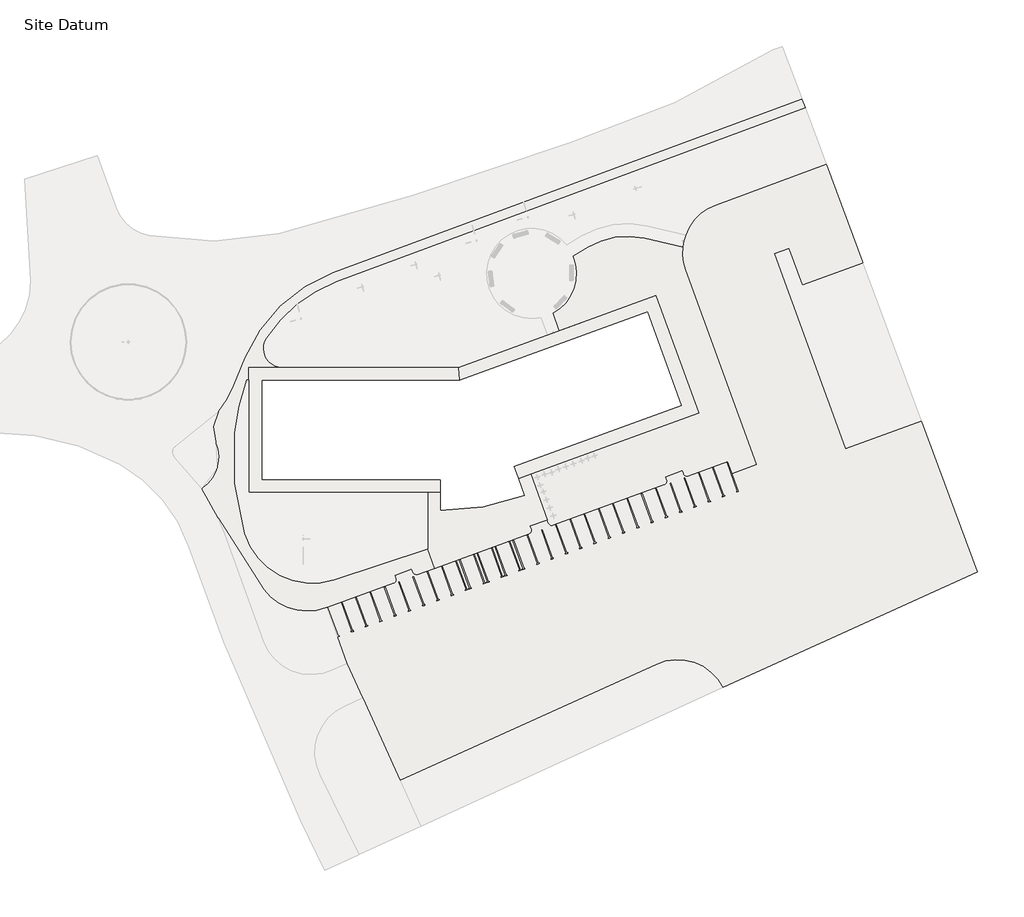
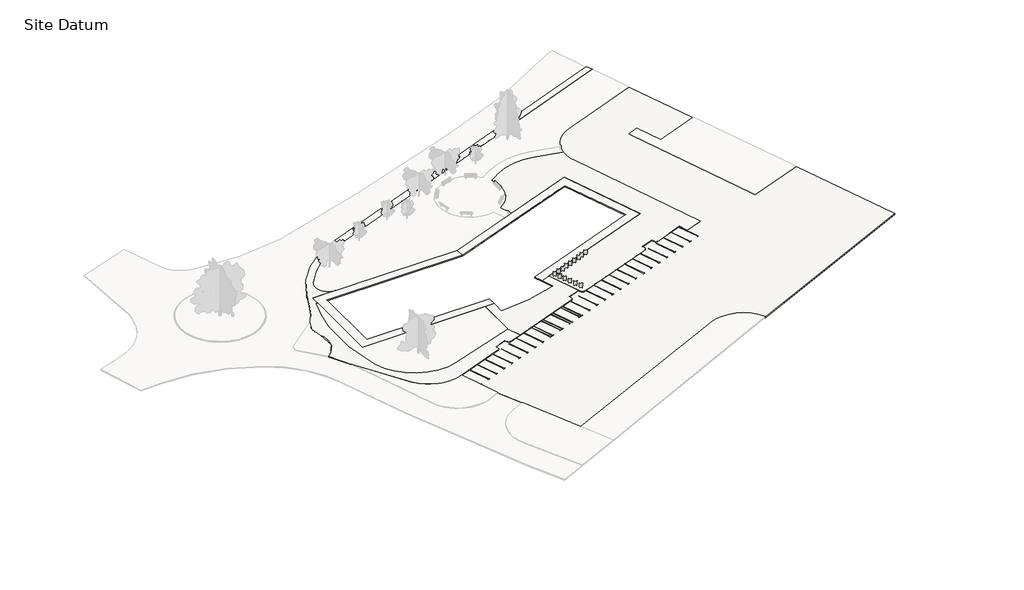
# One storey, part 2 of 3: 4 slabs.
"""IFC4 building model written with IfcOpenShell, lengths in millimetres."""

from ifc_helpers import new_model, si_unit, point, frame, frame_2d, origin, place, context, project, spatial, polyline, circle_curve, trimmed, segment, composite_curve, outline, extrude, element, save
from ifc_brep_helpers import plane_surface, cylinder_surface, revolved_surface, advanced_brep

model = new_model("IFC4")

# Units and contexts
model_context = context("Model", 3, world=origin())
ifc_project = project(units=[si_unit("LENGTHUNIT", "METRE", prefix="MILLI")], contexts=[model_context])

# Site, building, storey
site = spatial("IfcSite", under=ifc_project)
building = spatial("IfcBuilding", under=site)
storey = spatial("IfcBuildingStorey", under=building, Name="Site Datum", Elevation=-150.0)

# Slabs
placement = place(None, origin())
element("IfcSlab", 1, ObjectType="HW - Concrete Paving Slans", at=placement, inside=storey, context=model_context, shape_type="AdvancedBrep", body=[
    advanced_brep(
    [(-2533.7024759, 19294.645713, -1500.0), (11319.0750339, 32678.6820825, -1500.0), (85362.1920702, 60148.6729587, -1500.0), (85883.9420896, 58742.3383907, -1500.0), (11840.8250534, 31272.3475144, -1500.0), (743.7486245, 22349.3339988, -1500.0), (3266.8588542, 17726.3999981, -1500.0), (-1999.9999988, 17726.3999977, -1500.0), (-1999.9999988, 15726.3999977, -1500.0), (-2330.8401022, 15726.3999977, -1500.0), (-4195.856914, 7441.3832849, -1500.0), (-2642.8025055, -8500.2270946, -1500.0), (11459.4893753, -15883.0044948, -1500.0), (26235.8132695, -10959.5697673, -1500.0), (27343.9409024, -14004.1254157, -1500.0), (24705.8710177, -14964.30433, -1500.0), (23936.8433592, -14605.7008435, -1500.0), (23765.8332874, -14135.8545332, -1500.0), (21048.2422282, -15124.9767879, -1500.0), (21219.2522999, -15594.8230984, -1500.0), (20860.6488135, -16363.8507568, -1500.0), (10293.394387, -20210.0168268, -1500.0), (361.689646, -17332.8249948, -1500.0), (-6798.1354124, -6055.3212881, -1500.0), (-9435.7614518, -1426.1466285, -1500.0), (-7225.4587436, 5980.7679513, -1500.0), (-6782.3087816, 10684.1792377, -1500.0), (-4338.0208149, 14901.10847, -1500.0), (-2533.7024759, 19294.645713, -150.0), (-4338.0208149, 14901.10847, -150.0), (-6782.3087816, 10684.1792377, -150.0), (-7225.4587436, 5980.7679513, -150.0), (-9435.7614518, -1426.1466285, -150.0), (-6798.1354124, -6055.3212881, -150.0), (361.689646, -17332.8249947, -150.0), (10293.394387, -20210.0168268, -150.0), (20860.6488135, -16363.8507567, -150.0), (21219.2522999, -15594.8230984, -150.0), (21048.2422282, -15124.9767879, -150.0), (23765.8332874, -14135.8545332, -150.0), (23936.843359, -14605.7008435, -150.0), (24705.8710177, -14964.30433, -150.0), (27343.9409024, -14004.1254157, -150.0), (26235.8132695, -10959.5697673, -150.0), (11459.4893753, -15883.0044948, -150.0), (-2642.8025055, -8500.2270946, -150.0), (-4195.856914, 7441.3832849, -150.0), (-2330.8401022, 15726.3999977, -150.0), (-1999.9999988, 15726.3999977, -150.0), (-1999.9999988, 17726.3999977, -150.0), (3266.8588542, 17726.3999981, -150.0), (743.7486245, 22349.3339988, -150.0), (11840.8250534, 31272.3475144, -150.0), (85883.9420896, 58742.3383907, -150.0), (85362.1920702, 60148.6729587, -150.0), (11319.0750339, 32678.6820825, -150.0)],
    [
        (0, 1, circle_curve(frame((19667.0753449, 10177.3289941, -1500.0), z_axis=(0.0, 0.0, -1.0), x_axis=(1.0, 0.0, 0.0)), 24000.0)),
        (1, 2),
        (2, 3),
        (3, 4),
        (4, 5, circle_curve(frame((19667.0753449, 10177.3289941, -1500.0), z_axis=(0.0, 0.0, 1.0), x_axis=(1.0, 0.0, 0.0)), 22500.0)),
        (5, 6, circle_curve(frame((3266.8588539, 20726.3999981, -1500.0), z_axis=(0.0, 0.0, 1.0), x_axis=(1.0, 0.0, 0.0)), 3000.0)),
        (6, 7),
        (7, 8),
        (8, 9),
        (9, 10, circle_curve(frame((33467.7934212, 3315.4475825, -1500.0), z_axis=(0.0, 0.0, 1.0), x_axis=(1.0, 0.0, 0.0)), 37888.9680777)),
        (10, 11, circle_curve(frame((34681.860266, 3182.4503372, -1500.0), z_axis=(0.0, 0.0, 1.0), x_axis=(1.0, 0.0, 0.0)), 39110.2979148)),
        (11, 12, circle_curve(frame((8101.4056004, -5137.2732662, -1500.0), z_axis=(0.0, 0.0, 1.0), x_axis=(1.0, 0.0, 0.0)), 11258.217722)),
        (12, 13),
        (13, 14),
        (14, 15),
        (15, 16, circle_curve(frame((24500.6589316, -14400.4887575, -1500.0), z_axis=(0.0, 0.0, -1.0), x_axis=(1.0, 0.0, 0.0)), 600.0)),
        (16, 17),
        (17, 18),
        (18, 19),
        (19, 20, circle_curve(frame((20655.4367274, -15800.0351843, -1500.0), z_axis=(0.0, 0.0, -1.0), x_axis=(1.0, 0.0, 0.0)), 600.0)),
        (20, 21),
        (21, 22, circle_curve(frame((7234.2316265, -12189.7679154, -1500.0), z_axis=(0.0, 0.0, -1.0), x_axis=(1.0, 0.0, 0.0)), 8583.872634)),
        (22, 23, circle_curve(frame((70084.3302911, 34844.0146056, -1500.0), z_axis=(0.0, 0.0, -1.0), x_axis=(1.0, 0.0, 0.0)), 87084.264992)),
        (23, 24, circle_curve(frame((-34025.202939, -18502.8226128, -1500.0), z_axis=(0.0, 0.0, 1.0), x_axis=(1.0, 0.0, 0.0)), 29937.4931369)),
        (24, 25, circle_curve(frame((-12598.9404573, 3551.0261947, -1500.0), z_axis=(0.0, 0.0, 1.0), x_axis=(1.0, 0.0, 0.0)), 5897.2833349)),
        (25, 26, circle_curve(frame((-2883.1840488, 7944.2260418, -1500.0), z_axis=(0.0, 0.0, -1.0), x_axis=(1.0, 0.0, 0.0)), 4765.5552875)),
        (26, 27, circle_curve(frame((-21009.666539, 21747.745805, -1500.0), z_axis=(0.0, 0.0, 1.0), x_axis=(1.0, 0.0, 0.0)), 18022.7693195)),
        (27, 0),
        (28, 29),
        (29, 30, circle_curve(frame((-21009.666539, 21747.745805, -150.0), z_axis=(0.0, 0.0, -1.0), x_axis=(1.0, 0.0, 0.0)), 18022.7693195)),
        (30, 31, circle_curve(frame((-2883.1840488, 7944.2260418, -150.0), z_axis=(0.0, 0.0, 1.0), x_axis=(1.0, 0.0, 0.0)), 4765.5552875)),
        (31, 32, circle_curve(frame((-12598.9404573, 3551.0261947, -150.0), z_axis=(0.0, 0.0, -1.0), x_axis=(1.0, 0.0, 0.0)), 5897.2833349)),
        (32, 33, circle_curve(frame((-34025.202939, -18502.8226128, -150.0), z_axis=(0.0, 0.0, -1.0), x_axis=(1.0, 0.0, 0.0)), 29937.4931369)),
        (33, 34, circle_curve(frame((70084.3302911, 34844.0146056, -150.0), z_axis=(0.0, 0.0, 1.0), x_axis=(1.0, 0.0, 0.0)), 87084.264992)),
        (34, 35, circle_curve(frame((7234.2316265, -12189.7679154, -150.0), z_axis=(0.0, 0.0, 1.0), x_axis=(1.0, 0.0, 0.0)), 8583.872634)),
        (35, 36),
        (36, 37, circle_curve(frame((20655.4367274, -15800.0351843, -150.0), z_axis=(0.0, 0.0, 1.0), x_axis=(1.0, 0.0, 0.0)), 600.0)),
        (37, 38),
        (38, 39),
        (39, 40),
        (40, 41, circle_curve(frame((24500.6589316, -14400.4887575, -150.0), z_axis=(0.0, 0.0, 1.0), x_axis=(1.0, 0.0, 0.0)), 600.0)),
        (41, 42),
        (42, 43),
        (43, 44),
        (44, 45, circle_curve(frame((8101.4056004, -5137.2732662, -150.0), z_axis=(0.0, 0.0, -1.0), x_axis=(1.0, 0.0, 0.0)), 11258.217722)),
        (45, 46, circle_curve(frame((34681.860266, 3182.4503372, -150.0), z_axis=(0.0, 0.0, -1.0), x_axis=(1.0, 0.0, 0.0)), 39110.2979148)),
        (46, 47, circle_curve(frame((33467.7934212, 3315.4475825, -150.0), z_axis=(0.0, 0.0, -1.0), x_axis=(1.0, 0.0, 0.0)), 37888.9680777)),
        (47, 48),
        (48, 49),
        (49, 50),
        (50, 51, circle_curve(frame((3266.8588539, 20726.3999981, -150.0), z_axis=(0.0, 0.0, -1.0), x_axis=(1.0, 0.0, 0.0)), 3000.0)),
        (51, 52, circle_curve(frame((19667.0753449, 10177.3289941, -150.0), z_axis=(0.0, 0.0, -1.0), x_axis=(1.0, 0.0, 0.0)), 22500.0)),
        (52, 53),
        (53, 54),
        (54, 55),
        (55, 28, circle_curve(frame((19667.0753449, 10177.3289941, -150.0), z_axis=(0.0, 0.0, 1.0), x_axis=(1.0, 0.0, 0.0)), 24000.0)),
        (0, 28),
        (55, 1),
        (54, 2),
        (53, 3),
        (52, 4),
        (51, 5),
        (50, 6),
        (49, 7),
        (48, 8),
        (47, 9),
        (46, 10),
        (45, 11),
        (44, 12),
        (43, 13),
        (42, 14),
        (41, 15),
        (40, 16),
        (39, 17),
        (38, 18),
        (37, 19),
        (36, 20),
        (35, 21),
        (34, 22),
        (33, 23),
        (32, 24),
        (31, 25),
        (30, 26),
        (29, 27),
    ],
    [
        plane_surface(frame((43667.0753449, 10177.3289941, -1500.0), z_axis=(0.0, 0.0, -1.0), x_axis=(0.0, -1.0, 0.0))),
        plane_surface(frame((43667.0753449, 10177.3289941, -150.0), z_axis=(0.0, 0.0, 1.0), x_axis=(0.0, 1.0, 0.0))),
        cylinder_surface(frame((19667.0753449, 10177.3289941, -150.0), z_axis=(0.0, 0.0, -1.0), x_axis=(1.0, 0.0, 0.0)), 24000.0),
        plane_surface(frame((11319.0750339, 32678.6820825, -1500.0), z_axis=(-0.34783334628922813, 0.9375563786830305, 0.0), x_axis=(0.0, 0.0, 1.0))),
        plane_surface(frame((85362.1920702, 60148.6729587, -1500.0), z_axis=(0.937556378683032, 0.34783334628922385, 0.0), x_axis=(0.0, 0.0, 1.0))),
        plane_surface(frame((85883.9420896, 58742.3383907, -1500.0), z_axis=(0.3478333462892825, -0.9375563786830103, 0.0), x_axis=(0.0, 0.0, 1.0))),
        revolved_surface(polyline([(42167.075344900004, 10177.3289941, -150.0), (42167.075344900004, 10177.3289941, -1500.0)]), (19667.0753449, 10177.3289941, -150.0), (0.0, 0.0, 1.0)),
        revolved_surface(polyline([(6266.8588539, 20726.3999981, -150.0), (6266.8588539, 20726.3999981, -1500.0)]), (3266.8588539, 20726.3999981, -150.0), (0.0, 0.0, 1.0)),
        plane_surface(frame((3266.8588542, 17726.3999981, -1500.0), z_axis=(7.702193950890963e-11, -1.0, 0.0), x_axis=(0.0, 0.0, 1.0))),
        plane_surface(frame((-1999.9999988, 17726.3999977, -1500.0), z_axis=(1.0, 0.0, 0.0), x_axis=(0.0, 0.0, 1.0))),
        plane_surface(frame((-1999.9999988, 15726.3999977, -1500.0), z_axis=(0.0, -1.0, 0.0), x_axis=(0.0, 0.0, 1.0))),
        revolved_surface(polyline([(71356.7614989, 3315.4475825, -150.0), (71356.7614989, 3315.4475825, -1500.0)]), (33467.7934212, 3315.4475825, -150.0), (0.0, 0.0, 1.0)),
        revolved_surface(polyline([(73792.1581808, 3182.4503372, -150.0), (73792.1581808, 3182.4503372, -1500.0)]), (34681.860266, 3182.4503372, -150.0), (0.0, 0.0, 1.0)),
        revolved_surface(polyline([(19359.6233224, -5137.2732662, -150.0), (19359.6233224, -5137.2732662, -1500.0)]), (8101.4056004, -5137.2732662, -150.0), (0.0, 0.0, 1.0)),
        plane_surface(frame((11459.4893753, -15883.0044948, -1500.0), z_axis=(-0.31611181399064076, 0.9487219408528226, 0.0), x_axis=(0.0, 0.0, 1.0))),
        plane_surface(frame((26235.8132695, -10959.5697673, -1500.0), z_axis=(0.939692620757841, 0.3420201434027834, 0.0), x_axis=(0.0, 0.0, 1.0))),
        plane_surface(frame((27343.9409024, -14004.1254157, -1500.0), z_axis=(0.34202014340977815, -0.9396926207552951, 0.0), x_axis=(0.0, 0.0, 1.0))),
        cylinder_surface(frame((24500.6589316, -14400.4887575, -150.0), z_axis=(0.0, 0.0, -1.0), x_axis=(1.0, 0.0, 0.0)), 600.0),
        plane_surface(frame((23936.843359, -14605.7008435, -1500.0), z_axis=(-0.9396926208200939, -0.342020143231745, 0.0), x_axis=(0.0, 0.0, 1.0))),
        plane_surface(frame((23765.8332874, -14135.8545332, -1500.0), z_axis=(0.3420201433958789, -0.939692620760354, 0.0), x_axis=(0.0, 0.0, 1.0))),
        plane_surface(frame((21048.2422282, -15124.9767879, -1500.0), z_axis=(0.939692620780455, 0.3420201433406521, 0.0), x_axis=(0.0, 0.0, 1.0))),
        cylinder_surface(frame((20655.4367274, -15800.0351843, -150.0), z_axis=(0.0, 0.0, -1.0), x_axis=(1.0, 0.0, 0.0)), 600.0),
        plane_surface(frame((20860.6488135, -16363.8507567, -1500.0), z_axis=(0.34202014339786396, -0.9396926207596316, 0.0), x_axis=(0.0, 0.0, 1.0))),
        cylinder_surface(frame((7234.2316265, -12189.7679154, -150.0), z_axis=(0.0, 0.0, -1.0), x_axis=(1.0, 0.0, 0.0)), 8583.872634),
        cylinder_surface(frame((70084.3302911, 34844.0146056, -150.0), z_axis=(0.0, 0.0, -1.0), x_axis=(1.0, 0.0, 0.0)), 87084.264992),
        revolved_surface(polyline([(-4087.709802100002, -18502.8226128, -150.0), (-4087.709802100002, -18502.8226128, -1500.0)]), (-34025.202939, -18502.8226128, -150.0), (0.0, 0.0, 1.0)),
        revolved_surface(polyline([(-6701.657122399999, 3551.0261947, -150.0), (-6701.657122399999, 3551.0261947, -1500.0)]), (-12598.9404573, 3551.0261947, -150.0), (0.0, 0.0, 1.0)),
        cylinder_surface(frame((-2883.1840488, 7944.2260418, -150.0), z_axis=(0.0, 0.0, -1.0), x_axis=(1.0, 0.0, 0.0)), 4765.5552875),
        revolved_surface(polyline([(-2986.8972195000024, 21747.745805, -150.0), (-2986.8972195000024, 21747.745805, -1500.0)]), (-21009.666539, 21747.745805, -150.0), (0.0, 0.0, 1.0)),
        plane_surface(frame((-4338.0208149, 14901.10847, -1500.0), z_axis=(-0.9250324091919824, 0.37988819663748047, 0.0), x_axis=(0.0, 0.0, 1.0))),
    ],
    [
        (0, [[1, 2, 3, 4, 5, 6, 7, 8, 9, 10, 11, 12, 13, 14, 15, 16, 17, 18, 19, 20, 21, 22, 23, 24, 25, 26, 27, 28]]),
        (1, [[29, 30, 31, 32, 33, 34, 35, 36, 37, 38, 39, 40, 41, 42, 43, 44, 45, 46, 47, 48, 49, 50, 51, 52, 53, 54, 55, 56]]),
        (2, [[-1, 57, -56, 58]]),
        (3, [[-2, -58, -55, 59]]),
        (4, [[-3, -59, -54, 60]]),
        (5, [[-4, -60, -53, 61]]),
        (6, [[-5, -61, -52, 62]]),
        (7, [[-6, -62, -51, 63]]),
        (8, [[-7, -63, -50, 64]]),
        (9, [[-8, -64, -49, 65]]),
        (10, [[-9, -65, -48, 66]]),
        (11, [[-10, -66, -47, 67]]),
        (12, [[-11, -67, -46, 68]]),
        (13, [[-12, -68, -45, 69]]),
        (14, [[-13, -69, -44, 70]]),
        (15, [[-14, -70, -43, 71]]),
        (16, [[-15, -71, -42, 72]]),
        (17, [[-16, -72, -41, 73]]),
        (18, [[-17, -73, -40, 74]]),
        (19, [[-18, -74, -39, 75]]),
        (20, [[-19, -75, -38, 76]]),
        (21, [[-20, -76, -37, 77]]),
        (22, [[-21, -77, -36, 78]]),
        (23, [[-22, -78, -35, 79]]),
        (24, [[-23, -79, -34, 80]]),
        (25, [[-24, -80, -33, 81]]),
        (26, [[-25, -81, -32, 82]]),
        (27, [[-26, -82, -31, 83]]),
        (28, [[-27, -83, -30, 84]]),
        (29, [[-28, -84, -29, -57]]),
    ],
),
])
element("IfcSlab", 2, ObjectType="HW - Block Paving Herringbone Bond", at=placement, inside=storey, context=model_context, shape_type="AdvancedBrep", body=[
    advanced_brep(
    [(72854.8615141, -32834.7337523, -550.0), (62413.3299219, -29161.4888246, -550.0), (21892.102352, -47535.3195724, -550.0), (13513.7889112, -29057.9780616, -550.0), (10293.394387, -20210.0168268, -550.0), (20860.6488135, -16363.8507568, -550.0), (21219.2522999, -15594.8230983, -550.0), (21048.2422282, -15124.9767879, -550.0), (23765.8332874, -14135.8545332, -550.0), (23936.8433592, -14605.7008435, -550.0), (24705.8710177, -14964.30433, -550.0), (27343.9409024, -14004.1254157, -550.0), (42229.2590094, -8586.312696, -550.0), (42587.8624958, -7817.2850373, -550.0), (42416.8524241, -7347.4387271, -550.0), (45134.4434836, -6358.3164723, -550.0), (45312.1342321, -6845.6628614, -550.0), (46074.4812136, -7186.7662691, -550.0), (63597.8692056, -808.7746351, -550.0), (63956.4726919, -39.7469764, -550.0), (63785.4626203, 430.0993338, -550.0), (66503.0536795, 1419.2215885, -550.0), (66674.0637513, 949.375278, -550.0), (67443.0914098, 590.7717917, -550.0), (73675.6616572, 2859.2418453, -550.0), (74359.701944, 979.8566038, -550.0), (78181.8427387, 2371.0020846, -550.0), (66971.6618256, 33170.7210039, -550.0), (71720.4515573, 43412.4811679, -550.0), (89181.6069928, 49853.7519521, -550.0), (94984.2393189, 34213.2303961, -550.0), (85434.5526674, 30737.4287076, -550.0), (83321.9952212, 36541.6325869, -550.0), (81084.2283756, 35727.1520637, -550.0), (92285.419034, 4952.1336662, -550.0), (104227.5262858, 9298.7052413, -550.0), (113090.3993638, -14590.4453427, -550.0), (72854.8615141, -32834.7337523, -300.0), (113090.3993638, -14590.4453427, -300.0), (104227.5262858, 9298.7052413, -300.0), (92285.419034, 4952.1336662, -300.0), (81084.2283756, 35727.1520637, -300.0), (83321.9952212, 36541.6325869, -300.0), (85434.5526674, 30737.4287076, -300.0), (94984.2393189, 34213.2303961, -300.0), (94940.7593168, 34330.4271911, -300.0), (89181.6069928, 49853.7519521, -300.0), (71720.4515573, 43412.4811679, -300.0), (66971.6618256, 33170.7210039, -300.0), (78181.8427387, 2371.0020846, -300.0), (74359.701944, 979.8566038, -300.0), (73675.6616572, 2859.2418453, -300.0), (67443.0914098, 590.7717918, -300.0), (66674.0637513, 949.375278, -300.0), (66503.0536795, 1419.2215885, -300.0), (63785.4626203, 430.0993338, -300.0), (63956.4726921, -39.7469764, -300.0), (63597.8692056, -808.7746351, -300.0), (46074.4812136, -7186.7662691, -300.0), (45312.1342321, -6845.6628614, -300.0), (45134.4434836, -6358.3164723, -300.0), (42416.8524241, -7347.4387271, -300.0), (42587.8624959, -7817.2850373, -300.0), (42229.2590094, -8586.312696, -300.0), (27343.9409024, -14004.1254157, -300.0), (24705.8710177, -14964.30433, -300.0), (23936.8433592, -14605.7008435, -300.0), (23765.8332874, -14135.8545332, -300.0), (21048.2422282, -15124.9767879, -300.0), (21219.2522999, -15594.8230983, -300.0), (20860.6488135, -16363.8507568, -300.0), (10293.394387, -20210.0168268, -300.0), (13513.7889112, -29057.9780616, -300.0), (15991.5863515, -34522.4560646, -300.0), (21892.102352, -47535.3195724, -300.0), (62413.3299219, -29161.4888247, -300.0)],
    [
        (0, 1, circle_curve(frame((65717.0598423, -36447.4594953, -550.0), z_axis=(0.0, 0.0, 1.0), x_axis=(1.0, 0.0, 0.0)), 8000.0)),
        (1, 2),
        (2, 3),
        (3, 4),
        (4, 5),
        (5, 6, circle_curve(frame((20655.4367274, -15800.0351843, -550.0), z_axis=(0.0, 0.0, 1.0), x_axis=(1.0, 0.0, 0.0)), 600.0)),
        (6, 7),
        (7, 8),
        (8, 9),
        (9, 10, circle_curve(frame((24500.6589316, -14400.4887575, -550.0), z_axis=(0.0, 0.0, 1.0), x_axis=(1.0, 0.0, 0.0)), 600.0)),
        (10, 11),
        (11, 12),
        (12, 13, circle_curve(frame((42024.0469234, -8022.4971235, -550.0), z_axis=(0.0, 0.0, 1.0), x_axis=(1.0, 0.0, 0.0)), 600.0)),
        (13, 14),
        (14, 15),
        (15, 16),
        (16, 17, circle_curve(frame((45869.2691276, -6622.9506967, -550.0), z_axis=(0.0, 0.0, 1.0), x_axis=(1.0, 0.0, 0.0)), 600.0)),
        (17, 18),
        (18, 19, circle_curve(frame((63392.6571195, -244.9590626, -550.0), z_axis=(0.0, 0.0, 1.0), x_axis=(1.0, 0.0, 0.0)), 600.0)),
        (19, 20),
        (20, 21),
        (21, 22),
        (22, 23, circle_curve(frame((67237.8793237, 1154.5873642, -550.0), z_axis=(0.0, 0.0, 1.0), x_axis=(1.0, 0.0, 0.0)), 600.0)),
        (23, 24),
        (24, 25),
        (25, 26),
        (26, 27),
        (27, 28, circle_curve(frame((74489.2027917, 35906.8821511, -550.0), z_axis=(0.0, 0.0, -1.0), x_axis=(1.0, 0.0, 0.0)), 8000.0)),
        (28, 29),
        (29, 30),
        (30, 31),
        (31, 32),
        (32, 33),
        (33, 34),
        (34, 35),
        (35, 36),
        (36, 0),
        (37, 38),
        (38, 39),
        (39, 40),
        (40, 41),
        (41, 42),
        (42, 43),
        (43, 44),
        (44, 45),
        (45, 46),
        (46, 47),
        (47, 48, circle_curve(frame((74489.2027917, 35906.8821511, -300.0), z_axis=(0.0, 0.0, 1.0), x_axis=(1.0, 0.0, 0.0)), 8000.0)),
        (48, 49),
        (49, 50),
        (50, 51),
        (51, 52),
        (52, 53, circle_curve(frame((67237.8793237, 1154.5873642, -300.0), z_axis=(0.0, 0.0, -1.0), x_axis=(1.0, 0.0, 0.0)), 600.0)),
        (53, 54),
        (54, 55),
        (55, 56),
        (56, 57, circle_curve(frame((63392.6571195, -244.9590626, -300.0), z_axis=(0.0, 0.0, -1.0), x_axis=(1.0, 0.0, 0.0)), 600.0)),
        (57, 58),
        (58, 59, circle_curve(frame((45869.2691276, -6622.9506967, -300.0), z_axis=(0.0, 0.0, -1.0), x_axis=(1.0, 0.0, 0.0)), 600.0)),
        (59, 60),
        (60, 61),
        (61, 62),
        (62, 63, circle_curve(frame((42024.0469234, -8022.4971235, -300.0), z_axis=(0.0, 0.0, -1.0), x_axis=(1.0, 0.0, 0.0)), 600.0)),
        (63, 64),
        (64, 65),
        (65, 66, circle_curve(frame((24500.6589316, -14400.4887575, -300.0), z_axis=(0.0, 0.0, -1.0), x_axis=(1.0, 0.0, 0.0)), 600.0)),
        (66, 67),
        (67, 68),
        (68, 69),
        (69, 70, circle_curve(frame((20655.4367274, -15800.0351843, -300.0), z_axis=(0.0, 0.0, -1.0), x_axis=(1.0, 0.0, 0.0)), 600.0)),
        (70, 71),
        (71, 72),
        (72, 73),
        (73, 74),
        (74, 75),
        (75, 37, circle_curve(frame((65717.0598423, -36447.4594953, -300.0), z_axis=(0.0, 0.0, -1.0), x_axis=(1.0, 0.0, 0.0)), 8000.0)),
        (0, 37),
        (75, 1),
        (74, 2),
        (72, 3),
        (71, 4),
        (70, 5),
        (69, 6),
        (68, 7),
        (67, 8),
        (66, 9),
        (65, 10),
        (64, 11),
        (63, 12),
        (62, 13),
        (61, 14),
        (60, 15),
        (59, 16),
        (58, 17),
        (57, 18),
        (56, 19),
        (55, 20),
        (54, 21),
        (53, 22),
        (52, 23),
        (51, 24),
        (50, 25),
        (49, 26),
        (48, 27),
        (47, 28),
        (46, 29),
        (44, 30),
        (43, 31),
        (42, 32),
        (41, 33),
        (40, 34),
        (39, 35),
        (38, 36),
    ],
    [
        plane_surface(frame((73717.0598423, -36447.4594953, -550.0), z_axis=(0.0, 0.0, -1.0), x_axis=(0.0, 1.0, 0.0))),
        plane_surface(frame((73717.0598423, -36447.4594953, -300.0), z_axis=(0.0, 0.0, 1.0), x_axis=(0.0, -1.0, 0.0))),
        revolved_surface(polyline([(73717.0598423, -36447.4594953, -300.0), (73717.0598423, -36447.4594953, -550.0)]), (65717.0598423, -36447.4594953, -300.0), (0.0, 0.0, 1.0)),
        plane_surface(frame((62413.3299219, -29161.4888247, -550.0), z_axis=(0.4129662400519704, -0.9107463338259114, 0.0), x_axis=(0.0, 0.0, 1.0))),
        plane_surface(frame((21892.102352, -47535.3195724, -550.0), z_axis=(-0.9107463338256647, -0.4129662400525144, 0.0), x_axis=(0.0, 0.0, 1.0))),
        plane_surface(frame((13513.7889112, -29057.9780616, -550.0), z_axis=(-0.939692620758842, -0.3420201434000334, 0.0), x_axis=(0.0, 0.0, 1.0))),
        plane_surface(frame((10293.394387, -20210.0168268, -550.0), z_axis=(-0.34202014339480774, 0.9396926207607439, 0.0), x_axis=(0.0, 0.0, 1.0))),
        revolved_surface(polyline([(21255.4367274, -15800.0351843, -300.0), (21255.4367274, -15800.0351843, -550.0)]), (20655.4367274, -15800.0351843, -300.0), (0.0, 0.0, 1.0)),
        plane_surface(frame((21219.2522999, -15594.8230983, -550.0), z_axis=(-0.9396926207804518, -0.3420201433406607, 0.0), x_axis=(0.0, 0.0, 1.0))),
        plane_surface(frame((21048.2422282, -15124.9767879, -550.0), z_axis=(-0.3420201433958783, 0.9396926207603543, 0.0), x_axis=(0.0, 0.0, 1.0))),
        plane_surface(frame((23765.8332874, -14135.8545332, -550.0), z_axis=(0.9396926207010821, 0.3420201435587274, 0.0), x_axis=(0.0, 0.0, 1.0))),
        revolved_surface(polyline([(25100.6589316, -14400.4887575, -300.0), (25100.6589316, -14400.4887575, -550.0)]), (24500.6589316, -14400.4887575, -300.0), (0.0, 0.0, 1.0)),
        plane_surface(frame((24705.8710177, -14964.30433, -550.0), z_axis=(-0.3420201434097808, 0.9396926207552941, 0.0), x_axis=(0.0, 0.0, 1.0))),
        plane_surface(frame((27343.9409024, -14004.1254157, -550.0), z_axis=(-0.34202014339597, 0.9396926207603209, 0.0), x_axis=(0.0, 0.0, 1.0))),
        revolved_surface(polyline([(42624.0469234, -8022.4971235, -300.0), (42624.0469234, -8022.4971235, -550.0)]), (42024.0469234, -8022.4971235, -300.0), (0.0, 0.0, 1.0)),
        plane_surface(frame((42587.8624959, -7817.2850373, -550.0), z_axis=(-0.9396926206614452, -0.3420201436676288, 0.0), x_axis=(0.0, 0.0, 1.0))),
        plane_surface(frame((42416.8524241, -7347.4387271, -550.0), z_axis=(-0.3420201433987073, 0.9396926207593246, 0.0), x_axis=(0.0, 0.0, 1.0))),
        plane_surface(frame((45134.4434836, -6358.3164723, -550.0), z_axis=(0.9394996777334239, 0.3425497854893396, 0.0), x_axis=(0.0, 0.0, 1.0))),
        revolved_surface(polyline([(46469.2691276, -6622.9506967, -300.0), (46469.2691276, -6622.9506967, -550.0)]), (45869.2691276, -6622.9506967, -300.0), (0.0, 0.0, 1.0)),
        plane_surface(frame((46074.4812136, -7186.7662691, -550.0), z_axis=(-0.34202014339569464, 0.939692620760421, 0.0), x_axis=(0.0, 0.0, 1.0))),
        revolved_surface(polyline([(63992.6571195, -244.9590626, -300.0), (63992.6571195, -244.9590626, -550.0)]), (63392.6571195, -244.9590626, -300.0), (0.0, 0.0, 1.0)),
        plane_surface(frame((63956.4726921, -39.7469764, -550.0), z_axis=(-0.939692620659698, -0.3420201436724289, 0.0), x_axis=(0.0, 0.0, 1.0))),
        plane_surface(frame((63785.4626203, 430.0993338, -550.0), z_axis=(-0.34202014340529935, 0.9396926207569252, 0.0), x_axis=(0.0, 0.0, 1.0))),
        plane_surface(frame((66503.0536795, 1419.2215885, -550.0), z_axis=(0.9396926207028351, 0.34202014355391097, 0.0), x_axis=(0.0, 0.0, 1.0))),
        revolved_surface(polyline([(67837.8793237, 1154.5873642, -300.0), (67837.8793237, 1154.5873642, -550.0)]), (67237.8793237, 1154.5873642, -300.0), (0.0, 0.0, 1.0)),
        plane_surface(frame((67443.0914098, 590.7717918, -550.0), z_axis=(-0.3420201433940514, 0.9396926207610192, 0.0), x_axis=(0.0, 0.0, 1.0))),
        plane_surface(frame((73675.6616572, 2859.2418453, -550.0), z_axis=(0.939692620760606, 0.34202014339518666, 0.0), x_axis=(0.0, 0.0, 1.0))),
        plane_surface(frame((74359.701944, 979.8566038, -550.0), z_axis=(-0.34202014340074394, 0.9396926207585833, 0.0), x_axis=(0.0, 0.0, 1.0))),
        plane_surface(frame((78181.8427387, 2371.0020846, -550.0), z_axis=(-0.9396926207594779, -0.34202014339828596, 0.0), x_axis=(0.0, 0.0, 1.0))),
        cylinder_surface(frame((74489.2027917, 35906.8821511, -300.0), z_axis=(0.0, 0.0, -1.0), x_axis=(1.0, 0.0, 0.0)), 8000.0),
        plane_surface(frame((71720.4515573, 43412.4811679, -550.0), z_axis=(-0.34609390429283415, 0.9381998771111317, 0.0), x_axis=(0.0, 0.0, 1.0))),
        plane_surface(frame((89181.6069928, 49853.7519521, -550.0), z_axis=(0.9375563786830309, 0.34783334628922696, 0.0), x_axis=(0.0, 0.0, 1.0))),
        plane_surface(frame((94984.2393189, 34213.2303961, -550.0), z_axis=(0.34202014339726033, -0.9396926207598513, 0.0), x_axis=(0.0, 0.0, 1.0))),
        plane_surface(frame((85434.5526674, 30737.4287076, -550.0), z_axis=(-0.9396926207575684, -0.3420201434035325, 0.0), x_axis=(0.0, 0.0, 1.0))),
        plane_surface(frame((83321.9952212, 36541.6325869, -550.0), z_axis=(0.3420201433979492, -0.9396926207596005, 0.0), x_axis=(0.0, 0.0, 1.0))),
        plane_surface(frame((81084.2283756, 35727.1520637, -550.0), z_axis=(0.9396926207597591, 0.34202014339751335, 0.0), x_axis=(0.0, 0.0, 1.0))),
        plane_surface(frame((92285.419034, 4952.1336662, -550.0), z_axis=(-0.34202014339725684, 0.9396926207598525, 0.0), x_axis=(0.0, 0.0, 1.0))),
        plane_surface(frame((104227.5262858, 9298.7052413, -550.0), z_axis=(0.9375563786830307, 0.34783334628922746, 0.0), x_axis=(0.0, 0.0, 1.0))),
        plane_surface(frame((113090.3993638, -14590.4453427, -550.0), z_axis=(0.4129662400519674, -0.9107463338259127, 0.0), x_axis=(0.0, 0.0, 1.0))),
    ],
    [
        (0, [[1, 2, 3, 4, 5, 6, 7, 8, 9, 10, 11, 12, 13, 14, 15, 16, 17, 18, 19, 20, 21, 22, 23, 24, 25, 26, 27, 28, 29, 30, 31, 32, 33, 34, 35, 36, 37]]),
        (1, [[38, 39, 40, 41, 42, 43, 44, 45, 46, 47, 48, 49, 50, 51, 52, 53, 54, 55, 56, 57, 58, 59, 60, 61, 62, 63, 64, 65, 66, 67, 68, 69, 70, 71, 72, 73, 74, 75, 76]]),
        (2, [[-1, 77, -76, 78]]),
        (3, [[-2, -78, -75, 79]]),
        (4, [[-3, -79, -74, -73, 80]]),
        (5, [[-4, -80, -72, 81]]),
        (6, [[-5, -81, -71, 82]]),
        (7, [[-6, -82, -70, 83]]),
        (8, [[-7, -83, -69, 84]]),
        (9, [[-8, -84, -68, 85]]),
        (10, [[-9, -85, -67, 86]]),
        (11, [[-10, -86, -66, 87]]),
        (12, [[-11, -87, -65, 88]]),
        (13, [[-12, -88, -64, 89]]),
        (14, [[-13, -89, -63, 90]]),
        (15, [[-14, -90, -62, 91]]),
        (16, [[-15, -91, -61, 92]]),
        (17, [[-16, -92, -60, 93]]),
        (18, [[-17, -93, -59, 94]]),
        (19, [[-18, -94, -58, 95]]),
        (20, [[-19, -95, -57, 96]]),
        (21, [[-20, -96, -56, 97]]),
        (22, [[-21, -97, -55, 98]]),
        (23, [[-22, -98, -54, 99]]),
        (24, [[-23, -99, -53, 100]]),
        (25, [[-24, -100, -52, 101]]),
        (26, [[-25, -101, -51, 102]]),
        (27, [[-26, -102, -50, 103]]),
        (28, [[-27, -103, -49, 104]]),
        (29, [[-28, -104, -48, 105]]),
        (30, [[-29, -105, -47, 106]]),
        (31, [[-30, -106, -46, -45, 107]]),
        (32, [[-31, -107, -44, 108]]),
        (33, [[-32, -108, -43, 109]]),
        (34, [[-33, -109, -42, 110]]),
        (35, [[-34, -110, -41, 111]]),
        (36, [[-35, -111, -40, 112]]),
        (37, [[-36, -112, -39, 113]]),
        (38, [[-37, -113, -38, -77]]),
    ],
),
])
element("IfcSlab", 3, ObjectType="HW - Block Paving Staggered Bond", at=placement, inside=storey, context=model_context, shape_type="AdvancedBrep", body=[
    advanced_brep(
    [(69042.5031862, 10525.5287009, -400.0), (69042.5031862, 10525.5287009, -150.0), (42500.7193364, 865.109413, -150.0), (42500.7193364, 865.109413, -400.0), (45134.4434836, -6358.3164723, -150.0), (45134.4434836, -6358.3164723, -400.0), (42416.8524241, -7347.4387271, -150.0), (42416.8524241, -7347.4387271, -400.0), (42587.8624959, -7817.2850373, -150.0), (42587.8624959, -7817.2850373, -400.0), (42229.2590094, -8586.312696, -150.0), (42229.2590094, -8586.312696, -400.0), (27343.9409024, -14004.1254157, -150.0), (27343.9409024, -14004.1254157, -400.0), (26235.8132695, -10959.5697673, -150.0), (26235.8132695, -10959.5697673, -400.0), (26251.8766591, -1999.9999998, -150.0), (26251.8766591, -1999.9999998, -400.0), (-1999.9999998, -1999.9999998, -150.0), (-1999.9999998, -1999.9999998, -400.0), (-1999.9999987, 17726.3999977, -150.0), (-1999.9999987, 17726.3999977, -400.0), (31150.5993698, 17726.4000003, -150.0), (31150.5993698, 17726.4000003, -400.0), (62295.6770296, 29062.281215, -150.0), (62295.6770296, 29062.281215, -400.0), (58.0000003, -61.9999991, -400.0), (58.0000003, -61.9999991, -150.0), (28251.8766928, -61.9999991, -150.0), (28251.8766928, -61.9999991, -400.0), (28251.8766928, -1999.9999998, -150.0), (28251.8766928, -4883.5071854, -150.0), (28251.8766928, -4883.5071854, -400.0), (28251.8766928, -1999.9999998, -400.0), (41607.5513774, -2528.5413917, -150.0), (41607.5513774, -2528.5413917, -400.0), (40621.3338367, 181.0690324, -150.0), (39937.2935497, 2060.4542748, -150.0), (39937.2935497, 2060.4542748, -400.0), (40621.3338367, 181.0690324, -400.0), (66392.1560902, 11689.2367903, -150.0), (66392.1560902, 11689.2367903, -400.0), (60992.2052604, 26525.4797628, -150.0), (60992.2052604, 26525.4797628, -400.0), (31321.9774605, 15726.4000006, -150.0), (31321.9774605, 15726.4000006, -400.0), (58.0000028, 15726.4000006, -150.0), (58.0000028, 15726.4000006, -400.0)],
    [
        (0, 1),
        (1, 2),
        (2, 3),
        (3, 0),
        (2, 4),
        (4, 5),
        (5, 3),
        (4, 6),
        (6, 7),
        (7, 5),
        (6, 8),
        (8, 9),
        (9, 7),
        (8, 10, circle_curve(frame((42024.0469234, -8022.4971235, -150.0), z_axis=(0.0, 0.0, -1.0), x_axis=(1.0, 0.0, 0.0)), 600.0)),
        (10, 11),
        (11, 9, circle_curve(frame((42024.0469234, -8022.4971235, -400.0), z_axis=(0.0, 0.0, 1.0), x_axis=(1.0, 0.0, 0.0)), 600.0)),
        (10, 12),
        (12, 13),
        (13, 11),
        (12, 14),
        (14, 15),
        (15, 13),
        (14, 16),
        (16, 17),
        (17, 15),
        (16, 18),
        (18, 19),
        (19, 17),
        (18, 20),
        (20, 21),
        (21, 19),
        (20, 22),
        (22, 23),
        (23, 21),
        (22, 24),
        (24, 25),
        (25, 23),
        (24, 1),
        (0, 25),
        (26, 27),
        (27, 28),
        (28, 29),
        (29, 26),
        (28, 30),
        (30, 31),
        (31, 32),
        (32, 33),
        (33, 29),
        (31, 34, circle_curve(frame((28251.8763139, 34165.8753543, -150.0), z_axis=(0.0, 0.0, 1.0), x_axis=(1.0, 0.0, 0.0)), 39049.3825396)),
        (34, 35),
        (35, 32, circle_curve(frame((28251.8763139, 34165.8753543, -400.0), z_axis=(0.0, 0.0, -1.0), x_axis=(1.0, 0.0, 0.0)), 39049.3825396)),
        (34, 36),
        (36, 37),
        (37, 38),
        (38, 39),
        (39, 35),
        (37, 40),
        (40, 41),
        (41, 38),
        (40, 42),
        (42, 43),
        (43, 41),
        (42, 44),
        (44, 45),
        (45, 43),
        (44, 46),
        (46, 47),
        (47, 45),
        (46, 27),
        (26, 47),
        (22, 44),
        (36, 2),
        (30, 16),
        (23, 45),
        (33, 17),
        (3, 39),
    ],
    [
        plane_surface(frame((69042.5031862, 10525.5287009, -400.0), z_axis=(0.34202014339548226, -0.9396926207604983, 0.0), x_axis=(0.0, 0.0, 1.0))),
        plane_surface(frame((42500.7193364, 865.109413, -400.0), z_axis=(0.9394996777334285, 0.34254978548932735, 0.0), x_axis=(0.0, 0.0, 1.0))),
        plane_surface(frame((45134.4434836, -6358.3164723, -400.0), z_axis=(0.34202014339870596, -0.939692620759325, 0.0), x_axis=(0.0, 0.0, 1.0))),
        plane_surface(frame((42416.8524241, -7347.4387271, -400.0), z_axis=(0.9396926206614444, 0.3420201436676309, 0.0), x_axis=(0.0, 0.0, 1.0))),
        cylinder_surface(frame((42024.0469234, -8022.4971235, -150.0), z_axis=(0.0, 0.0, -1.0), x_axis=(1.0, 0.0, 0.0)), 600.0),
        plane_surface(frame((42229.2590094, -8586.312696, -400.0), z_axis=(0.3420201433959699, -0.9396926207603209, 0.0), x_axis=(0.0, 0.0, 1.0))),
        plane_surface(frame((27343.9409024, -14004.1254157, -400.0), z_axis=(-0.9396926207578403, -0.3420201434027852, 0.0), x_axis=(0.0, 0.0, 1.0))),
        plane_surface(frame((26235.8132695, -10959.5697673, -400.0), z_axis=(-0.9999983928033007, 0.0017928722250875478, 0.0), x_axis=(0.0, 0.0, 1.0))),
        plane_surface(frame((26251.8766591, -1999.9999998, -400.0), z_axis=(0.0, -1.0, 0.0), x_axis=(0.0, 0.0, 1.0))),
        plane_surface(frame((-1999.9999998, -1999.9999998, -400.0), z_axis=(-1.0, 5.6589282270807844e-11, 0.0), x_axis=(0.0, 0.0, 1.0))),
        plane_surface(frame((-1999.9999987, 17726.3999977, -400.0), z_axis=(-7.702198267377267e-11, 1.0, 0.0), x_axis=(0.0, 0.0, 1.0))),
        plane_surface(frame((31150.5993698, 17726.4000003, -400.0), z_axis=(-0.34202014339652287, 0.9396926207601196, 0.0), x_axis=(0.0, 0.0, 1.0))),
        plane_surface(frame((62295.6770296, 29062.281215, -400.0), z_axis=(0.9396926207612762, 0.34202014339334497, 0.0), x_axis=(0.0, 0.0, 1.0))),
        plane_surface(frame((58.0000003, -61.9999991, -400.0), z_axis=(0.0, 1.0, 0.0), x_axis=(0.0, 0.0, 1.0))),
        plane_surface(frame((28251.8766928, -61.9999991, -400.0), z_axis=(1.0, 0.0, 0.0), x_axis=(0.0, 0.0, 1.0))),
        revolved_surface(polyline([(67301.25885350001, 34165.8753543, -150.0), (67301.25885350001, 34165.8753543, -400.0)]), (28251.8763139, 34165.8753543, -150.0), (0.0, 0.0, 1.0)),
        plane_surface(frame((41607.5513774, -2528.5413917, -400.0), z_axis=(-0.9396926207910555, -0.3420201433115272, 0.0), x_axis=(0.0, 0.0, 1.0))),
        plane_surface(frame((39937.2935497, 2060.4542748, -400.0), z_axis=(-0.3420201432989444, 0.9396926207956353, 0.0), x_axis=(0.0, 0.0, 1.0))),
        plane_surface(frame((66392.1560902, 11689.2367903, -400.0), z_axis=(-0.9396926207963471, -0.3420201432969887, 0.0), x_axis=(0.0, 0.0, 1.0))),
        plane_surface(frame((60992.2052604, 26525.4797628, -400.0), z_axis=(0.34202014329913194, -0.939692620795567, 0.0), x_axis=(0.0, 0.0, 1.0))),
        plane_surface(frame((31321.9774605, 15726.4000006, -400.0), z_axis=(0.0, -1.0, 0.0), x_axis=(0.0, 0.0, 1.0))),
        plane_surface(frame((58.0000028, 15726.4000006, -400.0), z_axis=(1.0, -1.6003518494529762e-10, 0.0), x_axis=(0.0, 0.0, 1.0))),
        plane_surface(frame((50219.2182229, 14187.1062221, -150.0), z_axis=(0.0, 0.0, 1.0000000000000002), x_axis=(-0.9396926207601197, -0.3420201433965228, 0.0))),
        plane_surface(frame((36119.450515, -5453.2431872, -150.0), z_axis=(0.0, 0.0, 1.0), x_axis=(-0.0017928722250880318, -0.9999983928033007, 0.0))),
        plane_surface(frame((14386.5412775, 7847.7000002, -150.0), z_axis=(0.0, 0.0, 1.0), x_axis=(-1.0, -7.702204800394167e-11, 0.0))),
        plane_surface(frame((14386.5412775, 7847.7000002, -400.0), z_axis=(0.0, 0.0, -1.0), x_axis=(-1.0, -7.702204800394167e-11, 0.0))),
        plane_surface(frame((50219.2182229, 14187.1062221, -400.0), z_axis=(0.0, 0.0, -1.0000000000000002), x_axis=(-0.9396926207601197, -0.3420201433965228, 0.0))),
        plane_surface(frame((36119.450515, -5453.2431872, -400.0), z_axis=(0.0, 0.0, -1.0), x_axis=(-0.0017928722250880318, -0.9999983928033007, 0.0))),
    ],
    [
        (0, [[1, 2, 3, 4]]),
        (1, [[-3, 5, 6, 7]]),
        (2, [[-6, 8, 9, 10]]),
        (3, [[-9, 11, 12, 13]]),
        (4, [[-12, 14, 15, 16]]),
        (5, [[-15, 17, 18, 19]]),
        (6, [[-18, 20, 21, 22]]),
        (7, [[-21, 23, 24, 25]]),
        (8, [[-24, 26, 27, 28]]),
        (9, [[-27, 29, 30, 31]]),
        (10, [[-30, 32, 33, 34]]),
        (11, [[-33, 35, 36, 37]]),
        (12, [[-36, 38, -1, 39]]),
        (13, [[40, 41, 42, 43]]),
        (14, [[-42, 44, 45, 46, 47, 48]]),
        (15, [[-46, 49, 50, 51]]),
        (16, [[-50, 52, 53, 54, 55, 56]]),
        (17, [[-54, 57, 58, 59]]),
        (18, [[-58, 60, 61, 62]]),
        (19, [[-61, 63, 64, 65]]),
        (20, [[-64, 66, 67, 68]]),
        (21, [[-67, 69, -40, 70]]),
        (22, [[-35, 71, -63, -60, -57, -53, 72, -2, -38]]),
        (23, [[-23, -20, -17, -14, -11, -8, -5, -72, -52, -49, -45, 73]]),
        (24, [[-32, -29, -26, -73, -44, -41, -69, -66, -71]]),
        (25, [[74, -68, -70, -43, -48, 75, -28, -31, -34]]),
        (26, [[-39, -4, 76, -55, -59, -62, -65, -74, -37]]),
        (27, [[-75, -47, -51, -56, -76, -7, -10, -13, -16, -19, -22, -25]]),
    ],
),
])
element("IfcSlab", 4, ObjectType="SW - Grass", at=placement, inside=storey, context=model_context, shape_type="SweptSolid", body=[
    extrude(outline(composite_curve([segment(polyline([(62295.6770296, 29062.281215), (47069.7034268, 23520.4800346), (46061.9571485, 26289.2401782)]), True, "CONTINUOUS"), segment(trimmed(circle_curve(frame_2d((42709.4084348, 32576.4876649)), 7125.2413178), [point((46061.9571485, 26289.2401782))], [point((49273.5631912, 35347.9378578))], True, "CARTESIAN"), True, "CONTINUOUS"), segment(polyline([(49273.5631912, 35347.9378578), (51580.0185313, 36731.4861285)]), True, "CONTINUOUS"), segment(trimmed(circle_curve(frame_2d((57752.9015831, 26440.9314871)), 12000.0), [point((51580.0185313, 36731.4861285))], [point((60462.0586207, 38131.1183181))], False, "CARTESIAN"), True, "CONTINUOUS"), segment(polyline([(60462.0586207, 38131.1183181), (66531.1079215, 36724.6388612)]), True, "CONTINUOUS"), segment(trimmed(circle_curve(frame_2d((74489.2027917, 35906.8821511)), 8000.0), [point((66531.1079215, 36724.6388612))], [point((66971.6618256, 33170.7210039))], True, "CARTESIAN"), True, "CONTINUOUS"), segment(polyline([(66971.6618256, 33170.7210039), (78181.8427387, 2371.0020846), (74359.701944, 979.8566038), (73675.6616572, 2859.2418453), (67443.0914098, 590.7717918)]), True, "CONTINUOUS"), segment(trimmed(circle_curve(frame_2d((67237.8793237, 1154.5873642)), 600.0), [point((67443.0914098, 590.7717918))], [point((66674.0637513, 949.375278))], False, "CARTESIAN"), True, "CONTINUOUS"), segment(polyline([(66674.0637513, 949.375278), (66503.0536795, 1419.2215885), (63785.4626203, 430.0993338), (63956.4726921, -39.7469764)]), True, "CONTINUOUS"), segment(trimmed(circle_curve(frame_2d((63392.6571195, -244.9590626)), 600.0), [point((63956.4726921, -39.7469764))], [point((63597.8692056, -808.7746351))], False, "CARTESIAN"), True, "CONTINUOUS"), segment(polyline([(63597.8692056, -808.7746351), (46074.4812136, -7186.7662691)]), True, "CONTINUOUS"), segment(trimmed(circle_curve(frame_2d((45869.2691276, -6622.9506967)), 600.0), [point((46074.4812136, -7186.7662691))], [point((45312.1342321, -6845.6628614))], False, "CARTESIAN"), True, "CONTINUOUS"), segment(polyline([(45312.1342321, -6845.6628614), (42500.7193364, 865.109413), (69042.5031862, 10525.5287009), (62295.6770296, 29062.281215)]), True, "CONTINUOUS")], self_intersect=False)), frame((0.0, 0.0, -450.0), z_axis=(0.0, 0.0, 1.0), x_axis=(1.0, 0.0, 0.0)), (0.0, 0.0, 1.0), 300.0),
])

save(model, "model.ifc")
